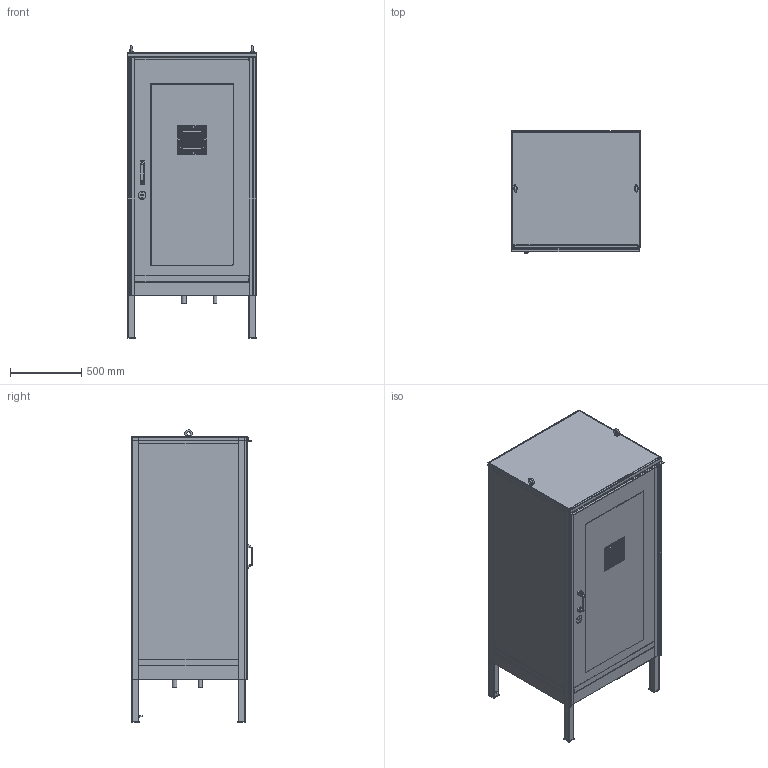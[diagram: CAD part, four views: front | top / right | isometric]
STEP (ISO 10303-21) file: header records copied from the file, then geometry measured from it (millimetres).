
FILE_DESCRIPTION(('STEP AP214'), '1');
FILE_NAME('WST69.00.000 - Îáîëî÷êà êîòëà òåðìåêñ 69-100êÂò', '', ('UNSPECIFIED'), ('UNSPECIFIED'), 'C3D Converter', 'C3D Toolkit', '');
FILE_SCHEMA(('AUTOMOTIVE_DESIGN { 1 0 10303 214 3 1 1}'));
Length unit declared in the file: millimetre
Products named in the file (1): WST69.00.000
Bounding box: 910.75 x 858 x 2055.87 mm (x, y, z)
Volume: 16101766.6 mm3; surface area: 16824508.5 mm2
Topology: 5 solids, 25 shells, 3541 faces, 6631 edges, 3068 vertices
Faces by surface type: plane 3128, cylinder 251, torus 68, sphere 52, bspline 30, cone 12
Full cylindrical faces by diameter (mm): 4 x4, 5 x2, 6.2 x2, 8 x2, 10.106 x2, 13 x2, 21 x1, 26 x1, 27.1 x1, 33.5 x1, 100 x2
Entity records: 114803 total; most frequent: CARTESIAN_POINT 23444, DIRECTION 14202, ORIENTED_EDGE 12390, EDGE_CURVE 6539, LINE 5648, VECTOR 5648, AXIS2_PLACEMENT_3D 4277, EDGE_LOOP 3651
